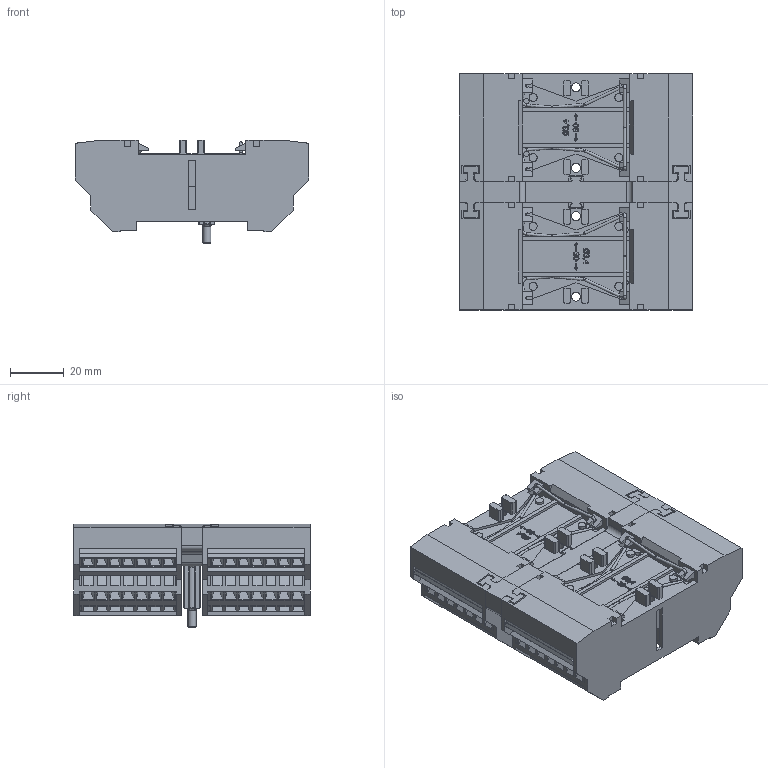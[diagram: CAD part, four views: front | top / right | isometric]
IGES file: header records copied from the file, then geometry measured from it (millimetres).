
Global section: file name: No Iges File Name specified; native system: Autodesk Inventor 2012; preprocessor: AutoDesk Inventor Iges Exporter R2012; author: a.vos; date: 20120118.100853; units: millimetre
Bounding box: 87 x 88 x 38.5 mm (x, y, z)
Surface area: 44357.1 mm2 (no closed solid volume)
Topology: 0 solids, 0 shells, 5721 faces, 31868 edges, 31795 vertices
Faces by surface type: plane 4510, bspline 681, revolution 530
